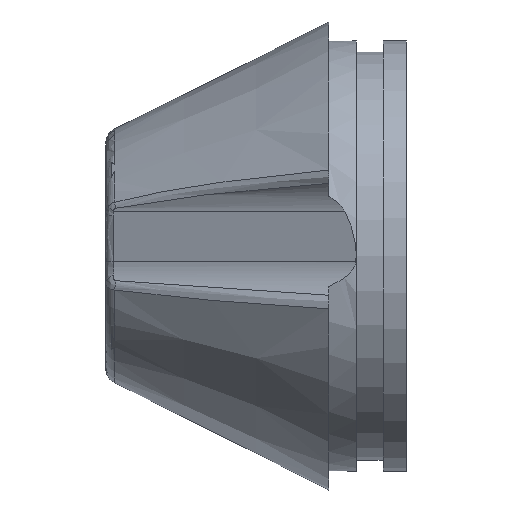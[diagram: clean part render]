
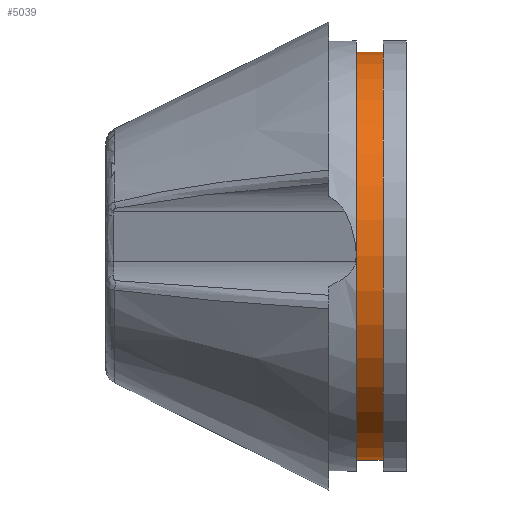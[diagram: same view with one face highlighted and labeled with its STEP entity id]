
A CAD part, top view. The second image highlights one B-rep face of the part: STEP entity #5039.
In plain terms, the highlighted cylindrical face has radius 18.3 mm (diameter 36.6 mm), a full revolution.
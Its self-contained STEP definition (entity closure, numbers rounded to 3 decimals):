
#4608 = PLANE('',#4609);
#4609 = AXIS2_PLACEMENT_3D('',#4610,#4611,#4612);
#4610 = CARTESIAN_POINT('',(22.5,0.,0.));
#4611 = DIRECTION('',(1.,0.,0.));
#4612 = DIRECTION('',(0.,0.,-1.));
#4893 = EDGE_CURVE('',#4894,#4894,#4896,.T.);
#4894 = VERTEX_POINT('',#4895);
#4895 = CARTESIAN_POINT('',(22.5,0.,-18.3));
#4896 = SURFACE_CURVE('',#4897,(#4902,#4909),.PCURVE_S1.);
#4897 = CIRCLE('',#4898,18.3);
#4898 = AXIS2_PLACEMENT_3D('',#4899,#4900,#4901);
#4899 = CARTESIAN_POINT('',(22.5,0.,0.));
#4900 = DIRECTION('',(1.,0.,0.));
#4901 = DIRECTION('',(0.,0.,-1.));
#4902 = PCURVE('',#4608,#4903);
#4903 = DEFINITIONAL_REPRESENTATION('',(#4904),#4908);
#4904 = CIRCLE('',#4905,18.3);
#4905 = AXIS2_PLACEMENT_2D('',#4906,#4907);
#4906 = CARTESIAN_POINT('',(0.,0.));
#4907 = DIRECTION('',(1.,0.));
#4908 = ( GEOMETRIC_REPRESENTATION_CONTEXT(2) 
PARAMETRIC_REPRESENTATION_CONTEXT() REPRESENTATION_CONTEXT('2D SPACE',''
  ) );
#4909 = PCURVE('',#4910,#4915);
#4910 = CYLINDRICAL_SURFACE('',#4911,18.3);
#4911 = AXIS2_PLACEMENT_3D('',#4912,#4913,#4914);
#4912 = CARTESIAN_POINT('',(21.7,0.,0.));
#4913 = DIRECTION('',(1.,0.,0.));
#4914 = DIRECTION('',(0.,0.,-1.));
#4915 = DEFINITIONAL_REPRESENTATION('',(#4916),#4920);
#4916 = LINE('',#4917,#4918);
#4917 = CARTESIAN_POINT('',(0.,0.8));
#4918 = VECTOR('',#4919,1.);
#4919 = DIRECTION('',(1.,0.));
#4920 = ( GEOMETRIC_REPRESENTATION_CONTEXT(2) 
PARAMETRIC_REPRESENTATION_CONTEXT() REPRESENTATION_CONTEXT('2D SPACE',''
  ) );
#5039 = ADVANCED_FACE('',(#5040),#4910,.T.);
#5040 = FACE_BOUND('',#5041,.T.);
#5041 = EDGE_LOOP('',(#5042,#5071,#5092,#5093));
#5042 = ORIENTED_EDGE('',*,*,#5043,.F.);
#5043 = EDGE_CURVE('',#5044,#5044,#5046,.T.);
#5044 = VERTEX_POINT('',#5045);
#5045 = CARTESIAN_POINT('',(24.9,0.,-18.3));
#5046 = SURFACE_CURVE('',#5047,(#5052,#5059),.PCURVE_S1.);
#5047 = CIRCLE('',#5048,18.3);
#5048 = AXIS2_PLACEMENT_3D('',#5049,#5050,#5051);
#5049 = CARTESIAN_POINT('',(24.9,0.,0.));
#5050 = DIRECTION('',(1.,0.,0.));
#5051 = DIRECTION('',(0.,0.,-1.));
#5052 = PCURVE('',#4910,#5053);
#5053 = DEFINITIONAL_REPRESENTATION('',(#5054),#5058);
#5054 = LINE('',#5055,#5056);
#5055 = CARTESIAN_POINT('',(0.,3.2));
#5056 = VECTOR('',#5057,1.);
#5057 = DIRECTION('',(1.,0.));
#5058 = ( GEOMETRIC_REPRESENTATION_CONTEXT(2) 
PARAMETRIC_REPRESENTATION_CONTEXT() REPRESENTATION_CONTEXT('2D SPACE',''
  ) );
#5059 = PCURVE('',#5060,#5065);
#5060 = PLANE('',#5061);
#5061 = AXIS2_PLACEMENT_3D('',#5062,#5063,#5064);
#5062 = CARTESIAN_POINT('',(24.9,0.,0.));
#5063 = DIRECTION('',(1.,0.,0.));
#5064 = DIRECTION('',(0.,0.,-1.));
#5065 = DEFINITIONAL_REPRESENTATION('',(#5066),#5070);
#5066 = CIRCLE('',#5067,18.3);
#5067 = AXIS2_PLACEMENT_2D('',#5068,#5069);
#5068 = CARTESIAN_POINT('',(0.,0.));
#5069 = DIRECTION('',(1.,0.));
#5070 = ( GEOMETRIC_REPRESENTATION_CONTEXT(2) 
PARAMETRIC_REPRESENTATION_CONTEXT() REPRESENTATION_CONTEXT('2D SPACE',''
  ) );
#5071 = ORIENTED_EDGE('',*,*,#5072,.F.);
#5072 = EDGE_CURVE('',#4894,#5044,#5073,.T.);
#5073 = SEAM_CURVE('',#5074,(#5078,#5085),.PCURVE_S1.);
#5074 = LINE('',#5075,#5076);
#5075 = CARTESIAN_POINT('',(21.7,0.,-18.3));
#5076 = VECTOR('',#5077,1.);
#5077 = DIRECTION('',(1.,0.,0.));
#5078 = PCURVE('',#4910,#5079);
#5079 = DEFINITIONAL_REPRESENTATION('',(#5080),#5084);
#5080 = LINE('',#5081,#5082);
#5081 = CARTESIAN_POINT('',(6.283,-0.));
#5082 = VECTOR('',#5083,1.);
#5083 = DIRECTION('',(0.,1.));
#5084 = ( GEOMETRIC_REPRESENTATION_CONTEXT(2) 
PARAMETRIC_REPRESENTATION_CONTEXT() REPRESENTATION_CONTEXT('2D SPACE',''
  ) );
#5085 = PCURVE('',#4910,#5086);
#5086 = DEFINITIONAL_REPRESENTATION('',(#5087),#5091);
#5087 = LINE('',#5088,#5089);
#5088 = CARTESIAN_POINT('',(0.,-0.));
#5089 = VECTOR('',#5090,1.);
#5090 = DIRECTION('',(0.,1.));
#5091 = ( GEOMETRIC_REPRESENTATION_CONTEXT(2) 
PARAMETRIC_REPRESENTATION_CONTEXT() REPRESENTATION_CONTEXT('2D SPACE',''
  ) );
#5092 = ORIENTED_EDGE('',*,*,#4893,.T.);
#5093 = ORIENTED_EDGE('',*,*,#5072,.T.);
